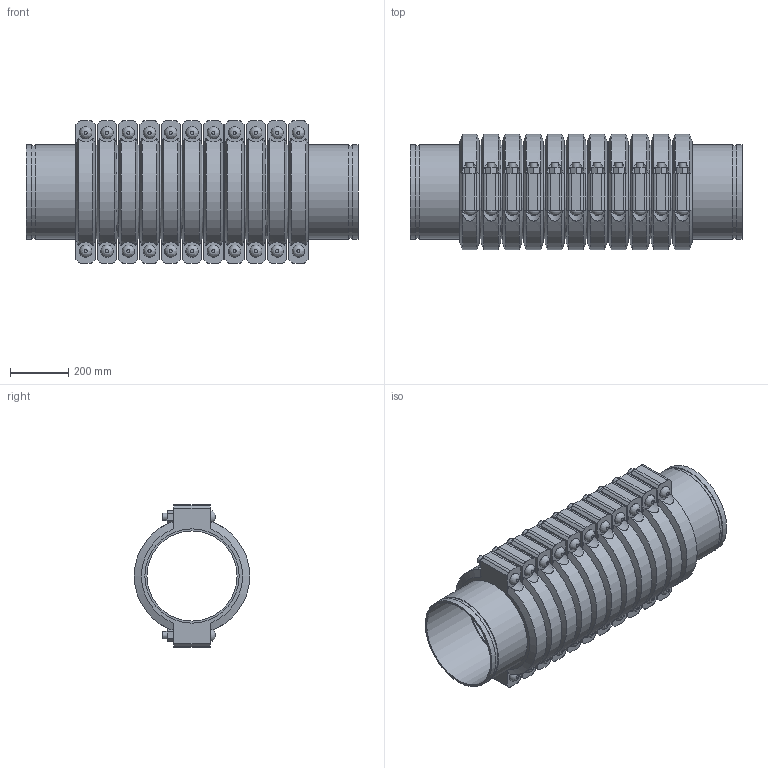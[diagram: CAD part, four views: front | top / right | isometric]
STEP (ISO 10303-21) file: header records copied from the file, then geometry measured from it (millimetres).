
FILE_DESCRIPTION(/* description */ ('VIC SS EXPANSION JOINT 11COUPLINGS NEUTRAL STYLE 155P (OGS) (POTABLE WATER) ','CAx-IF Rec.Pracs.---Representation and Presentation of Product Manufacturing Information (PMI)---4.0---2014-10-13'),/* implementation_level */ '2;1');
FILE_NAME(/* name */ 'C:\Users\kkamble\AppData\Roaming\Autodesk\ApplicationPlugins\Victaulic.Temp\A19\Victaulic_SS_Expansion Joint_Neutral_11 Couplings_Style 155P (OGS)-Potable Water_11 Coup_Neut_12 (300).stp',/* time_stamp */ '2021-07-16T16:28:52+06:00',/* author */ ('kkamble'),/* organization */ ('Victaulic'),/* preprocessor_version */ 'ST-DEVELOPER v17.2',/* originating_system */ 'Autodesk Inventor 2019',/* authorisation */ '');
FILE_SCHEMA (('AP242_MANAGED_MODEL_BASED_3D_ENGINEERING_MIM_LF { 1 0 10303 442 1 1 4 }'));
Length unit declared in the file: inch
Products named in the file (4): 155P-12.0; Nipple-12.0; Nipple-12.0_1; 077-12.0
Assembly tree (23 placements, depth 2):
  155P-12.0
    Nipple-12.0  x2
    Nipple-12.0_1  x10
    077-12.0  x11
Bounding box: 1139.95 x 397 x 488.95 mm (x, y, z)
Volume: 44477190.3 mm3; surface area: 6018019.6 mm2
Topology: 23 solids, 45 shells, 815 faces, 1955 edges, 1366 vertices
Faces by surface type: plane 468, cylinder 281, cone 44, bspline 22
Full cylindrical faces by diameter (mm): 25.4 x44, 27.432 x22, 309.677 x12, 314.96 x11, 318.287 x24, 323.85 x58
Entity records: 3153 total; most frequent: CARTESIAN_POINT 671, DIRECTION 501, ORIENTED_EDGE 410, AXIS2_PLACEMENT_3D 206, EDGE_CURVE 205, VERTEX_POINT 146, EDGE_LOOP 111, CIRCLE 96
